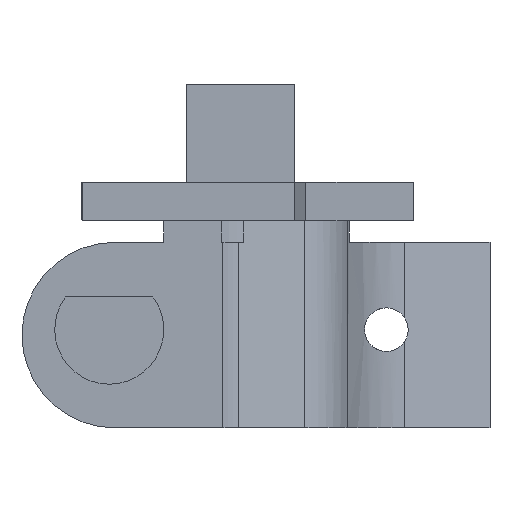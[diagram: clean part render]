
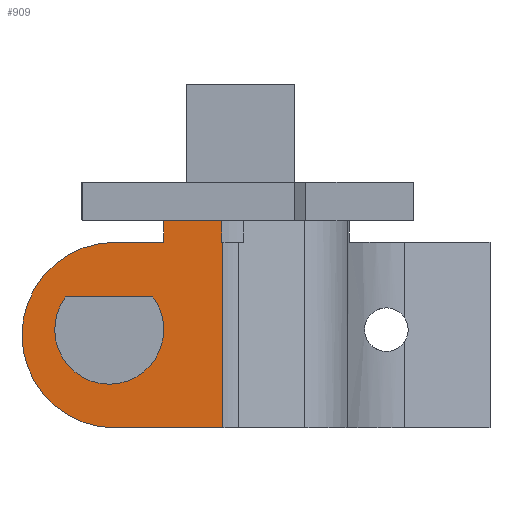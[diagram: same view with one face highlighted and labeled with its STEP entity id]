
A CAD part, front view. The second image highlights one B-rep face of the part: STEP entity #909.
In plain terms, the highlighted planar face has unit normal (0, -1, 0).
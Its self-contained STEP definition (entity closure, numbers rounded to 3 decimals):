
#909 = ADVANCED_FACE ( 'NONE', ( #3484, #3496 ), #3479, .T. ) ;
#915 = EDGE_CURVE ( 'NONE', #923, #928, #3458, .T. ) ;
#916 = VERTEX_POINT ( 'NONE', #3440 ) ;
#917 = ORIENTED_EDGE ( 'NONE', *, *, #925, .T. ) ;
#918 = VERTEX_POINT ( 'NONE', #3457 ) ;
#919 = EDGE_LOOP ( 'NONE', ( #1272, #924, #917, #926, #927, #935, #936, #934 ) ) ;
#923 = VERTEX_POINT ( 'NONE', #3395 ) ;
#924 = ORIENTED_EDGE ( 'NONE', *, *, #915, .F. ) ;
#925 = EDGE_CURVE ( 'NONE', #923, #918, #3009, .T. ) ;
#926 = ORIENTED_EDGE ( 'NONE', *, *, #943, .T. ) ;
#927 = ORIENTED_EDGE ( 'NONE', *, *, #944, .T. ) ;
#928 = VERTEX_POINT ( 'NONE', #3359 ) ;
#929 = VERTEX_POINT ( 'NONE', #3393 ) ;
#930 = VERTEX_POINT ( 'NONE', #3364 ) ;
#931 = ORIENTED_EDGE ( 'NONE', *, *, #996, .F. ) ;
#932 = VERTEX_POINT ( 'NONE', #3022 ) ;
#934 = ORIENTED_EDGE ( 'NONE', *, *, #941, .F. ) ;
#935 = ORIENTED_EDGE ( 'NONE', *, *, #947, .T. ) ;
#936 = ORIENTED_EDGE ( 'NONE', *, *, #945, .T. ) ;
#937 = VERTEX_POINT ( 'NONE', #3092 ) ;
#940 = EDGE_CURVE ( 'NONE', #932, #994, #3052, .T. ) ;
#941 = EDGE_CURVE ( 'NONE', #916, #937, #3450, .T. ) ;
#942 = EDGE_CURVE ( 'NONE', #916, #928, #3516, .T. ) ;
#943 = EDGE_CURVE ( 'NONE', #918, #929, #3058, .T. ) ;
#944 = EDGE_CURVE ( 'NONE', #929, #930, #3086, .T. ) ;
#945 = EDGE_CURVE ( 'NONE', #948, #937, #3354, .T. ) ;
#947 = EDGE_CURVE ( 'NONE', #930, #948, #3536, .T. ) ;
#948 = VERTEX_POINT ( 'NONE', #3539 ) ;
#994 = VERTEX_POINT ( 'NONE', #3684 ) ;
#996 = EDGE_CURVE ( 'NONE', #994, #932, #3685, .T. ) ;
#1262 = EDGE_LOOP ( 'NONE', ( #1264, #931 ) ) ;
#1264 = ORIENTED_EDGE ( 'NONE', *, *, #940, .F. ) ;
#1272 = ORIENTED_EDGE ( 'NONE', *, *, #942, .T. ) ;
#3008 = CARTESIAN_POINT ( 'NONE',  ( -8.209, -10.431, 33.1 ) ) ;
#3009 = LINE ( 'NONE', #3008, #3024 ) ;
#3019 = DIRECTION ( 'NONE',  ( 0., 0., -1. ) ) ;
#3021 = CARTESIAN_POINT ( 'NONE',  ( -2.894, -10.431, 31.1 ) ) ;
#3022 = CARTESIAN_POINT ( 'NONE',  ( -9.209, -10.431, 26.1 ) ) ;
#3024 = VECTOR ( 'NONE', #3019, 1000. ) ;
#3029 = VECTOR ( 'NONE', #3059, 1000. ) ;
#3033 = AXIS2_PLACEMENT_3D ( 'NONE', #3082, #3303, #3302 ) ;
#3039 = CARTESIAN_POINT ( 'NONE',  ( -17.209, -10.431, 26.1 ) ) ;
#3042 = DIRECTION ( 'NONE',  ( -1., 0., 0. ) ) ;
#3052 = LINE ( 'NONE', #3039, #3060 ) ;
#3057 = CARTESIAN_POINT ( 'NONE',  ( -21.209, -10.431, 31.1 ) ) ;
#3058 = LINE ( 'NONE', #3057, #3124 ) ;
#3059 = DIRECTION ( 'NONE',  ( 1., 0., 0. ) ) ;
#3060 = VECTOR ( 'NONE', #3042, 1000. ) ;
#3082 = CARTESIAN_POINT ( 'NONE',  ( -12.709, -10.431, 22.6 ) ) ;
#3083 = DIRECTION ( 'NONE',  ( -1., 0., 0. ) ) ;
#3086 = CIRCLE ( 'NONE', #3033, 8.5 ) ;
#3092 = CARTESIAN_POINT ( 'NONE',  ( -2.793, -10.431, 31.1 ) ) ;
#3124 = VECTOR ( 'NONE', #3083, 1000. ) ;
#3302 = DIRECTION ( 'NONE',  ( 0., 0., 1. ) ) ;
#3303 = DIRECTION ( 'NONE',  ( 0., -1., 0. ) ) ;
#3352 = DIRECTION ( 'NONE',  ( 0., 0., 1. ) ) ;
#3353 = CARTESIAN_POINT ( 'NONE',  ( -2.793, -10.431, 31.1 ) ) ;
#3354 = LINE ( 'NONE', #3353, #3360 ) ;
#3359 = CARTESIAN_POINT ( 'NONE',  ( -2.894, -10.431, 33.1 ) ) ;
#3360 = VECTOR ( 'NONE', #3352, 1000. ) ;
#3364 = CARTESIAN_POINT ( 'NONE',  ( -12.709, -10.431, 14.1 ) ) ;
#3393 = CARTESIAN_POINT ( 'NONE',  ( -12.709, -10.431, 31.1 ) ) ;
#3395 = CARTESIAN_POINT ( 'NONE',  ( -8.209, -10.431, 33.1 ) ) ;
#3412 = AXIS2_PLACEMENT_3D ( 'NONE', #3445, #3444, #3443 ) ;
#3440 = CARTESIAN_POINT ( 'NONE',  ( -2.894, -10.431, 31.1 ) ) ;
#3443 = DIRECTION ( 'NONE',  ( 0., 0., -1. ) ) ;
#3444 = DIRECTION ( 'NONE',  ( 0., -1., 0. ) ) ;
#3445 = CARTESIAN_POINT ( 'NONE',  ( -21.209, -10.431, 31.1 ) ) ;
#3450 = LINE ( 'NONE', #3021, #3029 ) ;
#3452 = DIRECTION ( 'NONE',  ( 1., 0., 0. ) ) ;
#3453 = VECTOR ( 'NONE', #3452, 1000. ) ;
#3454 = CARTESIAN_POINT ( 'NONE',  ( -2.793, -10.431, 33.1 ) ) ;
#3457 = CARTESIAN_POINT ( 'NONE',  ( -8.209, -10.431, 31.1 ) ) ;
#3458 = LINE ( 'NONE', #3454, #3453 ) ;
#3479 = PLANE ( 'NONE',  #3412 ) ;
#3484 = FACE_OUTER_BOUND ( 'NONE', #919, .T. ) ;
#3496 = FACE_BOUND ( 'NONE', #1262, .T. ) ;
#3516 = LINE ( 'NONE', #3519, #3518 ) ;
#3517 = DIRECTION ( 'NONE',  ( 0., 0., 1. ) ) ;
#3518 = VECTOR ( 'NONE', #3517, 1000. ) ;
#3519 = CARTESIAN_POINT ( 'NONE',  ( -2.894, -10.431, 31.1 ) ) ;
#3525 = CARTESIAN_POINT ( 'NONE',  ( -21.209, -10.431, 14.1 ) ) ;
#3536 = LINE ( 'NONE', #3525, #3538 ) ;
#3538 = VECTOR ( 'NONE', #3540, 1000. ) ;
#3539 = CARTESIAN_POINT ( 'NONE',  ( -2.793, -10.431, 14.1 ) ) ;
#3540 = DIRECTION ( 'NONE',  ( 1., 0., 0. ) ) ;
#3682 = AXIS2_PLACEMENT_3D ( 'NONE', #3695, #3694, #3702 ) ;
#3684 = CARTESIAN_POINT ( 'NONE',  ( -17.209, -10.431, 26.1 ) ) ;
#3685 = CIRCLE ( 'NONE', #3682, 5. ) ;
#3694 = DIRECTION ( 'NONE',  ( 0., -1., 0. ) ) ;
#3695 = CARTESIAN_POINT ( 'NONE',  ( -13.209, -10.431, 23.1 ) ) ;
#3702 = DIRECTION ( 'NONE',  ( 0., 0., 1. ) ) ;
